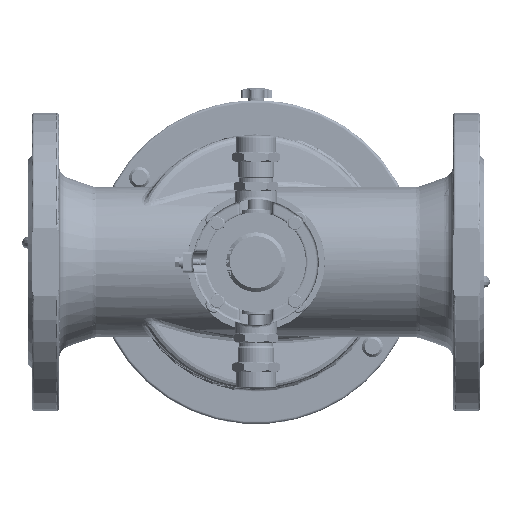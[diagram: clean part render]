
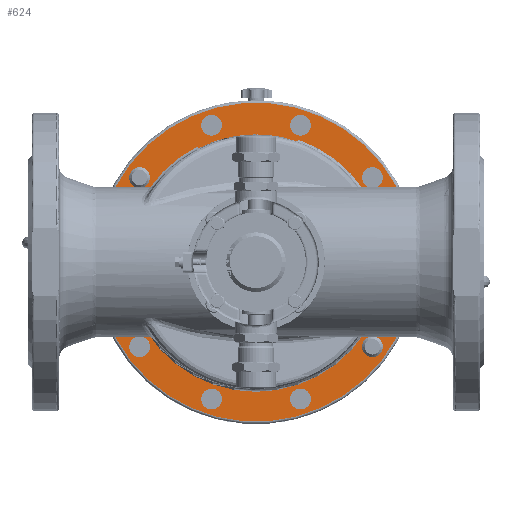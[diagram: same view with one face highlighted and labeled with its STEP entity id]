
A CAD part, front view. The second image highlights one B-rep face of the part: STEP entity #624.
In plain terms, the highlighted planar face has unit normal (0, -1, 0).
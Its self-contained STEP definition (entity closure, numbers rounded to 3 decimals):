
#624=ADVANCED_FACE('',(#13347,#13349,#13351,#13353,#13355,#13357,#13359,#13361,#13363,
#13365),#13367,.F.);
#13347=FACE_BOUND('',#13348,.T.);
#13348=EDGE_LOOP('',(#79938));
#13349=FACE_BOUND('',#13350,.T.);
#13350=EDGE_LOOP('',(#79939));
#13351=FACE_BOUND('',#13352,.T.);
#13352=EDGE_LOOP('',(#79940));
#13353=FACE_BOUND('',#13354,.T.);
#13354=EDGE_LOOP('',(#79941));
#13355=FACE_BOUND('',#13356,.T.);
#13356=EDGE_LOOP('',(#79942));
#13357=FACE_BOUND('',#13358,.T.);
#13358=EDGE_LOOP('',(#79943));
#13359=FACE_BOUND('',#13360,.T.);
#13360=EDGE_LOOP('',(#79944,#79945,#79946,#79947,#79948));
#13361=FACE_BOUND('',#13362,.T.);
#13362=EDGE_LOOP('',(#79949));
#13363=FACE_BOUND('',#13364,.T.);
#13364=EDGE_LOOP('',(#79950));
#13365=FACE_OUTER_BOUND('',#13366,.T.);
#13366=EDGE_LOOP('',(#79951,#79952,#79953,#79954));
#13367=PLANE('',#13368);
#13368=AXIS2_PLACEMENT_3D('',#13369,#13370,#13371);
#13369=CARTESIAN_POINT('',(125.,74.,0.));
#13370=DIRECTION('',(0.,1.,0.));
#13371=DIRECTION('',(-1.,0.,0.));
#79938=ORIENTED_EDGE('',*,*,#104609,.F.);
#79939=ORIENTED_EDGE('',*,*,#104610,.F.);
#79940=ORIENTED_EDGE('',*,*,#104611,.F.);
#79941=ORIENTED_EDGE('',*,*,#104612,.F.);
#79942=ORIENTED_EDGE('',*,*,#104613,.F.);
#79943=ORIENTED_EDGE('',*,*,#104614,.F.);
#79944=ORIENTED_EDGE('',*,*,#104615,.T.);
#79945=ORIENTED_EDGE('',*,*,#104616,.T.);
#79946=ORIENTED_EDGE('',*,*,#104617,.T.);
#79947=ORIENTED_EDGE('',*,*,#104618,.T.);
#79948=ORIENTED_EDGE('',*,*,#104619,.T.);
#79949=ORIENTED_EDGE('',*,*,#104620,.F.);
#79950=ORIENTED_EDGE('',*,*,#104621,.F.);
#79951=ORIENTED_EDGE('',*,*,#104522,.T.);
#79952=ORIENTED_EDGE('',*,*,#104530,.T.);
#79953=ORIENTED_EDGE('',*,*,#104527,.T.);
#79954=ORIENTED_EDGE('',*,*,#104525,.T.);
#104522=EDGE_CURVE('',#116084,#116081,#116086,.T.);
#104525=EDGE_CURVE('',#116088,#116084,#116090,.T.);
#104527=EDGE_CURVE('',#116092,#116088,#116093,.T.);
#104530=EDGE_CURVE('',#116081,#116092,#116096,.T.);
#104609=EDGE_CURVE('',#116227,#116227,#116228,.T.);
#104610=EDGE_CURVE('',#116229,#116229,#116230,.T.);
#104611=EDGE_CURVE('',#116231,#116231,#116232,.T.);
#104612=EDGE_CURVE('',#116233,#116233,#116234,.T.);
#104613=EDGE_CURVE('',#116235,#116235,#116236,.T.);
#104614=EDGE_CURVE('',#116237,#116237,#116238,.T.);
#104615=EDGE_CURVE('',#116239,#116240,#116241,.T.);
#104616=EDGE_CURVE('',#116240,#116242,#116243,.T.);
#104617=EDGE_CURVE('',#116242,#116244,#116245,.T.);
#104618=EDGE_CURVE('',#116244,#116246,#116247,.T.);
#104619=EDGE_CURVE('',#116246,#116239,#116248,.T.);
#104620=EDGE_CURVE('',#116249,#116249,#116250,.T.);
#104621=EDGE_CURVE('',#116251,#116251,#116252,.T.);
#116081=VERTEX_POINT('',#143445);
#116084=VERTEX_POINT('',#143454);
#116086=CIRCLE('',#143459,123.);
#116088=VERTEX_POINT('',#143467);
#116090=LINE('',#143472,#143473);
#116092=VERTEX_POINT('',#143479);
#116093=CIRCLE('',#143480,123.);
#116096=LINE('',#143492,#143493);
#116227=VERTEX_POINT('',#143923);
#116228=CIRCLE('',#143924,8.);
#116229=VERTEX_POINT('',#143928);
#116230=CIRCLE('',#143929,8.);
#116231=VERTEX_POINT('',#143933);
#116232=CIRCLE('',#143934,8.);
#116233=VERTEX_POINT('',#143938);
#116234=CIRCLE('',#143939,8.);
#116235=VERTEX_POINT('',#143943);
#116236=CIRCLE('',#143944,8.);
#116237=VERTEX_POINT('',#143948);
#116238=CIRCLE('',#143949,8.);
#116239=VERTEX_POINT('',#143953);
#116240=VERTEX_POINT('',#143954);
#116241=LINE('',#143955,#143956);
#116242=VERTEX_POINT('',#143958);
#116243=CIRCLE('',#143959,98.5);
#116244=VERTEX_POINT('',#143963);
#116245=LINE('',#143964,#143965);
#116246=VERTEX_POINT('',#143967);
#116247=CIRCLE('',#143968,100.);
#116248=CIRCLE('',#143972,100.);
#116249=VERTEX_POINT('',#143976);
#116250=CIRCLE('',#143977,8.);
#116251=VERTEX_POINT('',#143981);
#116252=CIRCLE('',#143982,8.);
#143445=CARTESIAN_POINT('',(108.,74.,-58.864));
#143454=CARTESIAN_POINT('',(-108.,74.,-58.864));
#143459=AXIS2_PLACEMENT_3D('',#143460,#143461,#143462);
#143460=CARTESIAN_POINT('',(0.,74.,0.));
#143461=DIRECTION('',(0.,-1.,0.));
#143462=DIRECTION('',(-0.878,0.,-0.479));
#143467=CARTESIAN_POINT('',(-108.,74.,58.864));
#143472=CARTESIAN_POINT('',(-108.,74.,58.864));
#143473=VECTOR('',#143474,1.);
#143474=DIRECTION('',(0.,0.,-1.));
#143479=CARTESIAN_POINT('',(108.,74.,58.864));
#143480=AXIS2_PLACEMENT_3D('',#143481,#143482,#143483);
#143481=CARTESIAN_POINT('',(0.,74.,0.));
#143482=DIRECTION('',(0.,-1.,0.));
#143483=DIRECTION('',(0.878,0.,0.479));
#143492=CARTESIAN_POINT('',(108.,74.,-58.864));
#143493=VECTOR('',#143494,1.);
#143494=DIRECTION('',(0.,0.,1.));
#143923=CARTESIAN_POINT('',(-97.801,74.,65.244));
#143924=AXIS2_PLACEMENT_3D('',#143925,#143926,#143927);
#143925=CARTESIAN_POINT('',(-89.801,74.,65.244));
#143926=DIRECTION('',(0.,-1.,0.));
#143927=DIRECTION('',(-1.,0.,0.));
#143928=CARTESIAN_POINT('',(92.273,74.,72.853));
#143929=AXIS2_PLACEMENT_3D('',#143930,#143931,#143932);
#143930=CARTESIAN_POINT('',(89.801,74.,65.244));
#143931=DIRECTION('',(0.,-1.,0.));
#143932=DIRECTION('',(0.309,0.,0.951));
#143933=CARTESIAN_POINT('',(31.829,74.,113.176));
#143934=AXIS2_PLACEMENT_3D('',#143935,#143936,#143937);
#143935=CARTESIAN_POINT('',(34.301,74.,105.567));
#143936=DIRECTION('',(0.,-1.,0.));
#143937=DIRECTION('',(-0.309,0.,0.951));
#143938=CARTESIAN_POINT('',(-40.773,74.,110.27));
#143939=AXIS2_PLACEMENT_3D('',#143940,#143941,#143942);
#143940=CARTESIAN_POINT('',(-34.301,74.,105.567));
#143941=DIRECTION('',(0.,-1.,0.));
#143942=DIRECTION('',(-0.809,0.,0.588));
#143943=CARTESIAN_POINT('',(27.829,74.,-100.865));
#143944=AXIS2_PLACEMENT_3D('',#143945,#143946,#143947);
#143945=CARTESIAN_POINT('',(34.301,74.,-105.567));
#143946=DIRECTION('',(0.,-1.,0.));
#143947=DIRECTION('',(-0.809,0.,0.588));
#143948=CARTESIAN_POINT('',(-36.773,74.,-97.959));
#143949=AXIS2_PLACEMENT_3D('',#143950,#143951,#143952);
#143950=CARTESIAN_POINT('',(-34.301,74.,-105.567));
#143951=DIRECTION('',(0.,-1.,0.));
#143952=DIRECTION('',(-0.309,0.,0.951));
#143953=CARTESIAN_POINT('',(-44.859,74.,89.374));
#143954=CARTESIAN_POINT('',(-44.859,74.,87.692));
#143955=CARTESIAN_POINT('',(-44.859,74.,89.374));
#143956=VECTOR('',#143957,1.);
#143957=DIRECTION('',(0.,0.,-1.));
#143958=CARTESIAN_POINT('',(32.225,74.,93.08));
#143959=AXIS2_PLACEMENT_3D('',#143960,#143961,#143962);
#143960=CARTESIAN_POINT('',(0.,74.,0.));
#143961=DIRECTION('',(0.,1.,0.));
#143962=DIRECTION('',(-0.455,0.,0.89));
#143963=CARTESIAN_POINT('',(32.225,74.,94.665));
#143964=CARTESIAN_POINT('',(32.225,74.,93.08));
#143965=VECTOR('',#143966,1.);
#143966=DIRECTION('',(0.,0.,1.));
#143967=CARTESIAN_POINT('',(0.,74.,-100.));
#143968=AXIS2_PLACEMENT_3D('',#143969,#143970,#143971);
#143969=CARTESIAN_POINT('',(0.,74.,0.));
#143970=DIRECTION('',(0.,1.,0.));
#143971=DIRECTION('',(0.322,0.,0.947));
#143972=AXIS2_PLACEMENT_3D('',#143973,#143974,#143975);
#143973=CARTESIAN_POINT('',(0.,74.,0.));
#143974=DIRECTION('',(0.,1.,0.));
#143975=DIRECTION('',(0.,0.,-1.));
#143976=CARTESIAN_POINT('',(-87.329,74.,-57.636));
#143977=AXIS2_PLACEMENT_3D('',#143978,#143979,#143980);
#143978=CARTESIAN_POINT('',(-89.801,74.,-65.244));
#143979=DIRECTION('',(0.,-1.,0.));
#143980=DIRECTION('',(0.309,0.,0.951));
#143981=CARTESIAN_POINT('',(81.801,74.,-65.244));
#143982=AXIS2_PLACEMENT_3D('',#143983,#143984,#143985);
#143983=CARTESIAN_POINT('',(89.801,74.,-65.244));
#143984=DIRECTION('',(0.,-1.,0.));
#143985=DIRECTION('',(-1.,0.,0.));
